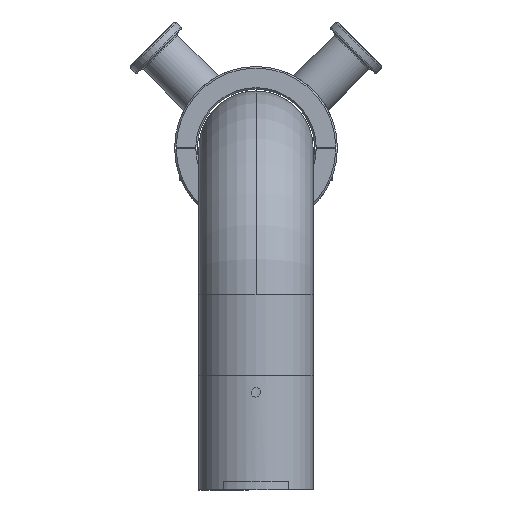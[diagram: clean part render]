
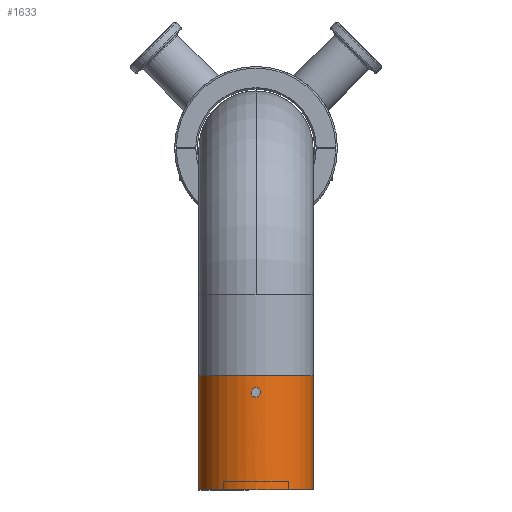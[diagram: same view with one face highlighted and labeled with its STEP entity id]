
A CAD part, front view. The second image highlights one B-rep face of the part: STEP entity #1633.
In plain terms, the highlighted cylindrical face has radius 17.5 mm (diameter 35 mm), a partial arc.
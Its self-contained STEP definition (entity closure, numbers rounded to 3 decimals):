
#39 = EDGE_CURVE ( 'NONE', #3392, #4669, #4748, .T. ) ;
#183 = CARTESIAN_POINT ( 'NONE',  ( 0.665, -17.488, 31.348 ) ) ;
#206 = CARTESIAN_POINT ( 'NONE',  ( 0.197, -17.499, 31.49 ) ) ;
#304 = DIRECTION ( 'NONE',  ( 0., 0., -1. ) ) ;
#342 = CARTESIAN_POINT ( 'NONE',  ( -1.302, -17.452, 30.75 ) ) ;
#418 = CARTESIAN_POINT ( 'NONE',  ( 17.5, 0., 35. ) ) ;
#477 = EDGE_LOOP ( 'NONE', ( #3511, #2374 ) ) ;
#552 = CARTESIAN_POINT ( 'NONE',  ( 0., -17.5, 28.5 ) ) ;
#593 = CARTESIAN_POINT ( 'NONE',  ( 0.388, -17.496, 31.452 ) ) ;
#638 = CARTESIAN_POINT ( 'NONE',  ( 17.5, 0., 0. ) ) ;
#678 = EDGE_CURVE ( 'NONE', #4669, #3392, #4870, .T. ) ;
#716 = DIRECTION ( 'NONE',  ( 0., 0., 1. ) ) ;
#723 = CARTESIAN_POINT ( 'NONE',  ( -0.395, -17.496, 31.46 ) ) ;
#828 = DIRECTION ( 'NONE',  ( 1., 0., 0. ) ) ;
#957 = CARTESIAN_POINT ( 'NONE',  ( 0.992, -17.472, 31.13 ) ) ;
#976 = CIRCLE ( 'NONE', #4237, 17.5 ) ;
#977 = VERTEX_POINT ( 'NONE', #3519 ) ;
#980 = CARTESIAN_POINT ( 'NONE',  ( 1.311, -17.451, 30.755 ) ) ;
#1025 = CARTESIAN_POINT ( 'NONE',  ( -17.5, 0., 0. ) ) ;
#1037 = CARTESIAN_POINT ( 'NONE',  ( 0.915, -17.476, 28.807 ) ) ;
#1061 = CARTESIAN_POINT ( 'NONE',  ( 1.301, -17.452, 29.248 ) ) ;
#1077 = CARTESIAN_POINT ( 'NONE',  ( -1.49, -17.436, 29.802 ) ) ;
#1107 = CARTESIAN_POINT ( 'NONE',  ( -1.348, -17.448, 29.334 ) ) ;
#1170 = ORIENTED_EDGE ( 'NONE', *, *, #2802, .F. ) ;
#1246 = CIRCLE ( 'NONE', #3375, 17.5 ) ;
#1330 = VECTOR ( 'NONE', #304, 1000. ) ;
#1352 = CARTESIAN_POINT ( 'NONE',  ( -0.196, -17.5, 28.5 ) ) ;
#1362 = CARTESIAN_POINT ( 'NONE',  ( 0.099, -17.5, 31.5 ) ) ;
#1395 = CARTESIAN_POINT ( 'NONE',  ( 0., -17.5, 31.5 ) ) ;
#1447 = CARTESIAN_POINT ( 'NONE',  ( 1.131, -17.464, 29.01 ) ) ;
#1463 = EDGE_LOOP ( 'NONE', ( #2152, #1170, #4975, #2670 ) ) ;
#1468 = CARTESIAN_POINT ( 'NONE',  ( 0., 0., 35. ) ) ;
#1483 = CARTESIAN_POINT ( 'NONE',  ( 0.915, -17.476, 31.193 ) ) ;
#1560 = CARTESIAN_POINT ( 'NONE',  ( -1.348, -17.448, 30.664 ) ) ;
#1633 = ADVANCED_FACE ( 'NONE', ( #4431, #4112 ), #4521, .T. ) ;
#1791 = CARTESIAN_POINT ( 'NONE',  ( 0., 0., 0. ) ) ;
#1870 = CARTESIAN_POINT ( 'NONE',  ( 1.193, -17.459, 29.085 ) ) ;
#1891 = CARTESIAN_POINT ( 'NONE',  ( 0.665, -17.488, 28.652 ) ) ;
#1938 = DIRECTION ( 'NONE',  ( -1., 0., 0. ) ) ;
#1962 = DIRECTION ( 'NONE',  ( 1., 0., 0. ) ) ;
#2099 = EDGE_CURVE ( 'NONE', #977, #3578, #3967, .T. ) ;
#2152 = ORIENTED_EDGE ( 'NONE', *, *, #2791, .F. ) ;
#2279 = CARTESIAN_POINT ( 'NONE',  ( 1.348, -17.448, 29.336 ) ) ;
#2328 = CARTESIAN_POINT ( 'NONE',  ( 1.5, -17.436, 30.196 ) ) ;
#2340 = CARTESIAN_POINT ( 'NONE',  ( -17.5, 0., 35. ) ) ;
#2374 = ORIENTED_EDGE ( 'NONE', *, *, #39, .T. ) ;
#2412 = CARTESIAN_POINT ( 'NONE',  ( -0.922, -17.476, 28.8 ) ) ;
#2670 = ORIENTED_EDGE ( 'NONE', *, *, #3082, .T. ) ;
#2672 = CARTESIAN_POINT ( 'NONE',  ( 0.753, -17.484, 28.699 ) ) ;
#2699 = CARTESIAN_POINT ( 'NONE',  ( 0.484, -17.494, 31.423 ) ) ;
#2718 = CARTESIAN_POINT ( 'NONE',  ( 0., -17.5, 28.5 ) ) ;
#2726 = CARTESIAN_POINT ( 'NONE',  ( 0.483, -17.494, 28.577 ) ) ;
#2770 = CARTESIAN_POINT ( 'NONE',  ( -0.756, -17.485, 31.31 ) ) ;
#2791 = EDGE_CURVE ( 'NONE', #3089, #3127, #4491, .T. ) ;
#2802 = EDGE_CURVE ( 'NONE', #977, #3089, #1246, .T. ) ;
#2806 = CARTESIAN_POINT ( 'NONE',  ( -0.393, -17.497, 28.539 ) ) ;
#2858 = CARTESIAN_POINT ( 'NONE',  ( 0., -17.5, 31.5 ) ) ;
#2938 = DIRECTION ( 'NONE',  ( 0., 0., 1. ) ) ;
#3082 = EDGE_CURVE ( 'NONE', #3578, #3127, #976, .T. ) ;
#3089 = VERTEX_POINT ( 'NONE', #418 ) ;
#3127 = VERTEX_POINT ( 'NONE', #638 ) ;
#3139 = CARTESIAN_POINT ( 'NONE',  ( 1.5, -17.436, 29.903 ) ) ;
#3156 = DIRECTION ( 'NONE',  ( 0., 0., -1. ) ) ;
#3183 = CARTESIAN_POINT ( 'NONE',  ( -0.754, -17.485, 28.689 ) ) ;
#3244 = CARTESIAN_POINT ( 'NONE',  ( -1.301, -17.452, 29.248 ) ) ;
#3375 = AXIS2_PLACEMENT_3D ( 'NONE', #3758, #716, #1962 ) ;
#3392 = VERTEX_POINT ( 'NONE', #552 ) ;
#3511 = ORIENTED_EDGE ( 'NONE', *, *, #678, .T. ) ;
#3519 = CARTESIAN_POINT ( 'NONE',  ( -17.5, 0., 35. ) ) ;
#3533 = VECTOR ( 'NONE', #4876, 1000. ) ;
#3552 = CARTESIAN_POINT ( 'NONE',  ( 1.199, -17.459, 30.922 ) ) ;
#3567 = CARTESIAN_POINT ( 'NONE',  ( -1.194, -17.459, 30.913 ) ) ;
#3578 = VERTEX_POINT ( 'NONE', #1025 ) ;
#3581 = CARTESIAN_POINT ( 'NONE',  ( 0.39, -17.496, 28.548 ) ) ;
#3758 = CARTESIAN_POINT ( 'NONE',  ( 0., 0., 35. ) ) ;
#3908 = CARTESIAN_POINT ( 'NONE',  ( 0., -17.5, 31.5 ) ) ;
#3961 = CARTESIAN_POINT ( 'NONE',  ( 1.424, -17.442, 29.517 ) ) ;
#3967 = LINE ( 'NONE', #2340, #3533 ) ;
#3998 = CARTESIAN_POINT ( 'NONE',  ( -1.452, -17.44, 29.611 ) ) ;
#4077 = CARTESIAN_POINT ( 'NONE',  ( 17.5, 0., 35. ) ) ;
#4082 = CARTESIAN_POINT ( 'NONE',  ( -1.192, -17.459, 29.085 ) ) ;
#4112 = FACE_BOUND ( 'NONE', #477, .T. ) ;
#4237 = AXIS2_PLACEMENT_3D ( 'NONE', #1791, #2938, #828 ) ;
#4339 = CARTESIAN_POINT ( 'NONE',  ( 0., -17.5, 28.5 ) ) ;
#4370 = CARTESIAN_POINT ( 'NONE',  ( 0.098, -17.5, 28.5 ) ) ;
#4395 = CARTESIAN_POINT ( 'NONE',  ( 0.197, -17.499, 28.51 ) ) ;
#4411 = CARTESIAN_POINT ( 'NONE',  ( -1.5, -17.436, 29.9 ) ) ;
#4431 = FACE_OUTER_BOUND ( 'NONE', #1463, .T. ) ;
#4471 = CARTESIAN_POINT ( 'NONE',  ( -0.923, -17.476, 31.198 ) ) ;
#4491 = LINE ( 'NONE', #4077, #1330 ) ;
#4521 = CYLINDRICAL_SURFACE ( 'NONE', #4729, 17.5 ) ;
#4524 = CARTESIAN_POINT ( 'NONE',  ( -0.198, -17.5, 31.5 ) ) ;
#4669 = VERTEX_POINT ( 'NONE', #1395 ) ;
#4729 = AXIS2_PLACEMENT_3D ( 'NONE', #1468, #3156, #1938 ) ;
#4748 = B_SPLINE_CURVE_WITH_KNOTS ( 'NONE', 3,
 ( #2718, #1352, #2806, #3183, #2412, #5331, #4082, #3244, #1107, #4860, #3998, #1077, #4411, #5364, #4922, #1560, #342, #3567, #5274, #4471, #2770, #723, #4524, #2858 ),
 .UNSPECIFIED., .F., .F.,
 ( 4, 2, 2, 2, 2, 2, 2, 2, 2, 2, 2, 4 ),
 ( 0.005, 0.005, 0.006, 0.006, 0.006, 0.007, 0.007, 0.008, 0.008, 0.008, 0.009, 0.009 ),
 .UNSPECIFIED. ) ;
#4762 = CARTESIAN_POINT ( 'NONE',  ( 1.461, -17.439, 30.394 ) ) ;
#4788 = CARTESIAN_POINT ( 'NONE',  ( 1.49, -17.436, 29.803 ) ) ;
#4819 = CARTESIAN_POINT ( 'NONE',  ( 0.991, -17.472, 28.869 ) ) ;
#4860 = CARTESIAN_POINT ( 'NONE',  ( -1.423, -17.442, 29.515 ) ) ;
#4870 = B_SPLINE_CURVE_WITH_KNOTS ( 'NONE', 3,
 ( #3908, #1362, #206, #593, #2699, #183, #5204, #1483, #957, #3552, #980, #4762, #2328, #3139, #4788, #5226, #3961, #2279, #1061, #1870, #1447, #4819, #1037, #2672, #1891, #2726, #3581, #4395, #4370, #4339 ),
 .UNSPECIFIED., .F., .F.,
 ( 4, 2, 2, 2, 2, 2, 2, 2, 2, 2, 2, 2, 2, 2, 4 ),
 ( 0., 0., 0.001, 0.001, 0.001, 0.002, 0.002, 0.003, 0.003, 0.003, 0.004, 0.004, 0.004, 0.004, 0.005 ),
 .UNSPECIFIED. ) ;
#4876 = DIRECTION ( 'NONE',  ( 0., 0., -1. ) ) ;
#4922 = CARTESIAN_POINT ( 'NONE',  ( -1.461, -17.439, 30.392 ) ) ;
#4975 = ORIENTED_EDGE ( 'NONE', *, *, #2099, .T. ) ;
#5204 = CARTESIAN_POINT ( 'NONE',  ( 0.752, -17.484, 31.302 ) ) ;
#5226 = CARTESIAN_POINT ( 'NONE',  ( 1.452, -17.44, 29.611 ) ) ;
#5274 = CARTESIAN_POINT ( 'NONE',  ( -1.131, -17.464, 30.991 ) ) ;
#5331 = CARTESIAN_POINT ( 'NONE',  ( -1.129, -17.464, 29.008 ) ) ;
#5364 = CARTESIAN_POINT ( 'NONE',  ( -1.5, -17.436, 30.197 ) ) ;
